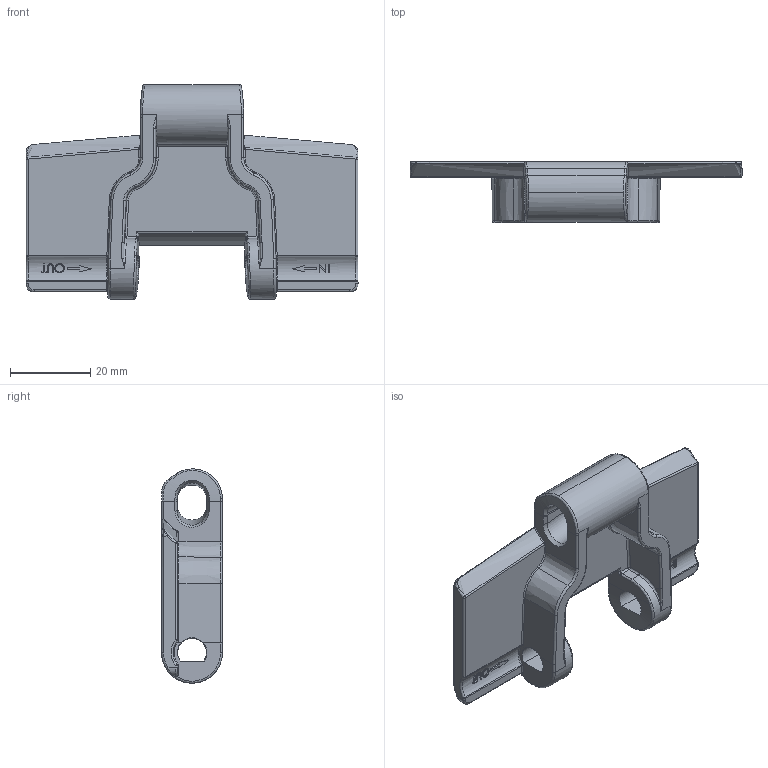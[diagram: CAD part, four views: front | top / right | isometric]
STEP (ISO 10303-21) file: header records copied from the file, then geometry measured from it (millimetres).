
FILE_DESCRIPTION (( 'STEP AP203' ), '1' );
FILE_NAME ('LF880M325.STEP', '2019-05-31T06:18:59', ( '' ), ( '' ), 'SwSTEP 2.0', 'SolidWorks 2019', '' );
FILE_SCHEMA (( 'CONFIG_CONTROL_DESIGN' ));
Length unit declared in the file: millimetre
Products named in the file (1): LF880M325
Bounding box: 82.5 x 15.1 x 53.25 mm (x, y, z)
Volume: 17375.6 mm3; surface area: 10289.5 mm2
Topology: 1 solids, 1 shells, 316 faces, 807 edges, 463 vertices
Faces by surface type: bspline 101, plane 87, cylinder 74, torus 30, cone 16, sphere 8
Entity records: 13204 total; most frequent: CARTESIAN_POINT 6529, ORIENTED_EDGE 1550, DIRECTION 1162, EDGE_CURVE 775, VERTEX_POINT 463, AXIS2_PLACEMENT_3D 429, EDGE_LOOP 324, FACE_OUTER_BOUND 316
